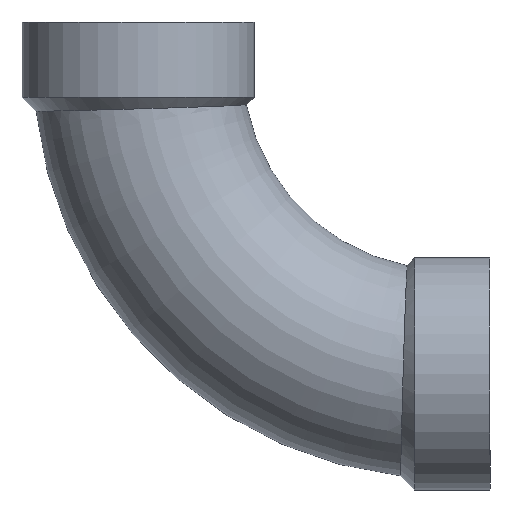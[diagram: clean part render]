
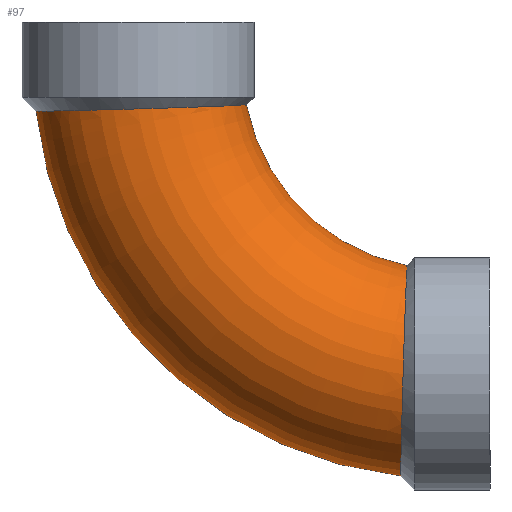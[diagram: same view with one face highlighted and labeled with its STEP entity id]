
A CAD part, front view. The second image highlights one B-rep face of the part: STEP entity #97.
In plain terms, the highlighted toroidal (fillet/blend) face has major radius 75.103 mm and minor radius 25.489 mm.
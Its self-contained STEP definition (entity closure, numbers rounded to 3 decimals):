
#97=ADVANCED_FACE('',(#192),#193,.T.);
#192=FACE_OUTER_BOUND('',#282,.T.);
#193=TOROIDAL_SURFACE('',#283,75.103,25.489);
#282=EDGE_LOOP('',(#491,#492,#493,#494));
#283=AXIS2_PLACEMENT_3D('',#495,#496,#497);
#491=ORIENTED_EDGE('',*,*,#516,.T.);
#492=ORIENTED_EDGE('',*,*,#565,.T.);
#493=ORIENTED_EDGE('',*,*,#518,.T.);
#494=ORIENTED_EDGE('',*,*,#556,.T.);
#495=CARTESIAN_POINT('',(6.828,0.0,75.103));
#496=DIRECTION('',(0.,-1.0,0.));
#497=DIRECTION('',(0.,0.0,1.0));
#516=EDGE_CURVE('',#601,#602,#603,.T.);
#518=EDGE_CURVE('',#606,#604,#607,.T.);
#556=EDGE_CURVE('',#604,#601,#673,.T.);
#565=EDGE_CURVE('',#602,#606,#686,.T.);
#601=VERTEX_POINT('',#722);
#602=VERTEX_POINT('',#723);
#603=CIRCLE('',#724,100.592);
#604=VERTEX_POINT('',#725);
#606=VERTEX_POINT('',#748);
#607=CIRCLE('',#749,49.614);
#673=B_SPLINE_CURVE_WITH_KNOTS('',3,(#1289,#1290,#1291,#1292,#1293,#1294,#1295,#1296,#1297,#1298,#1299,#1300,#1301,#1302,#1303,#1304,#1305,#1306,#1307,#1308,#1309,#1310),.UNSPECIFIED.,.F.,.F.,(4,2,2,2,2,2,2,2,2,2,4),(-3.171,-3.157,-2.978,-2.655,-2.257,-1.869,-1.496,-1.129,-0.761,-0.387,-0.0),.UNSPECIFIED.);
#686=B_SPLINE_CURVE_WITH_KNOTS('',3,(#1327,#1328,#1329,#1330,#1331,#1332,#1333,#1334,#1335,#1336,#1337,#1338,#1339,#1340,#1341,#1342,#1343,#1344,#1345,#1346,#1347,#1348),.UNSPECIFIED.,.F.,.F.,(4,2,2,2,2,2,2,2,2,2,4),(-6.342,-6.138,-5.939,-5.541,-5.143,-4.742,-4.339,-3.955,-3.607,-3.329,-3.171),.UNSPECIFIED.);
#722=CARTESIAN_POINT('',(-93.15,0.,64.006));
#723=CARTESIAN_POINT('',(-4.269,0.,-24.875));
#724=AXIS2_PLACEMENT_3D('',#1816,#1817,#1818);
#725=CARTESIAN_POINT('',(-41.858,0.,65.549));
#748=CARTESIAN_POINT('',(-2.726,0.,26.417));
#749=AXIS2_PLACEMENT_3D('',#1819,#1820,#1821);
#1289=CARTESIAN_POINT('',(-41.858,0.,65.549));
#1290=CARTESIAN_POINT('',(-41.858,-0.119,65.549));
#1291=CARTESIAN_POINT('',(-41.859,-0.237,65.549));
#1292=CARTESIAN_POINT('',(-41.882,-1.868,65.548));
#1293=CARTESIAN_POINT('',(-42.039,-3.375,65.541));
#1294=CARTESIAN_POINT('',(-42.857,-7.545,65.504));
#1295=CARTESIAN_POINT('',(-43.816,-10.126,65.462));
#1296=CARTESIAN_POINT('',(-46.832,-15.434,65.335));
#1297=CARTESIAN_POINT('',(-49.061,-18.003,65.245));
#1298=CARTESIAN_POINT('',(-54.315,-22.084,65.05));
#1299=CARTESIAN_POINT('',(-57.272,-23.584,64.948));
#1300=CARTESIAN_POINT('',(-63.464,-25.359,64.749));
#1301=CARTESIAN_POINT('',(-66.633,-25.666,64.655));
#1302=CARTESIAN_POINT('',(-72.874,-25.122,64.481));
#1303=CARTESIAN_POINT('',(-75.897,-24.294,64.403));
#1304=CARTESIAN_POINT('',(-81.504,-21.595,64.264));
#1305=CARTESIAN_POINT('',(-84.041,-19.744,64.205));
#1306=CARTESIAN_POINT('',(-88.362,-15.179,64.108));
#1307=CARTESIAN_POINT('',(-90.094,-12.489,64.071));
#1308=CARTESIAN_POINT('',(-92.517,-6.517,64.019));
#1309=CARTESIAN_POINT('',(-93.15,-3.274,64.006));
#1310=CARTESIAN_POINT('',(-93.15,0.,64.006));
#1327=CARTESIAN_POINT('',(-4.269,0.,-24.875));
#1328=CARTESIAN_POINT('',(-4.269,-1.728,-24.875));
#1329=CARTESIAN_POINT('',(-4.265,-3.452,-24.699));
#1330=CARTESIAN_POINT('',(-4.251,-6.792,-24.008));
#1331=CARTESIAN_POINT('',(-4.24,-8.401,-23.504));
#1332=CARTESIAN_POINT('',(-4.198,-13.047,-21.526));
#1333=CARTESIAN_POINT('',(-4.157,-15.852,-19.606));
#1334=CARTESIAN_POINT('',(-4.047,-20.559,-14.783));
#1335=CARTESIAN_POINT('',(-3.98,-22.413,-11.926));
#1336=CARTESIAN_POINT('',(-3.822,-24.917,-5.643));
#1337=CARTESIAN_POINT('',(-3.732,-25.536,-2.275));
#1338=CARTESIAN_POINT('',(-3.535,-25.436,4.528));
#1339=CARTESIAN_POINT('',(-3.43,-24.708,7.898));
#1340=CARTESIAN_POINT('',(-3.223,-22.05,14.007));
#1341=CARTESIAN_POINT('',(-3.124,-20.202,16.716));
#1342=CARTESIAN_POINT('',(-2.955,-15.812,21.084));
#1343=CARTESIAN_POINT('',(-2.884,-13.382,22.785));
#1344=CARTESIAN_POINT('',(-2.788,-8.579,25.032));
#1345=CARTESIAN_POINT('',(-2.757,-6.314,25.729));
#1346=CARTESIAN_POINT('',(-2.731,-2.666,26.312));
#1347=CARTESIAN_POINT('',(-2.726,-1.334,26.417));
#1348=CARTESIAN_POINT('',(-2.726,0.,26.417));
#1816=CARTESIAN_POINT('',(6.828,0.,75.103));
#1817=DIRECTION('',(0.,-1.0,0.));
#1818=DIRECTION('',(0.0,0.,-1.0));
#1819=CARTESIAN_POINT('',(6.828,0.,75.103));
#1820=DIRECTION('',(0.,1.0,0.));
#1821=DIRECTION('',(0.0,0.,-1.0));
